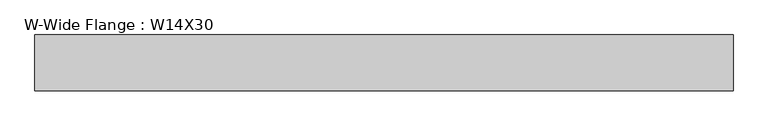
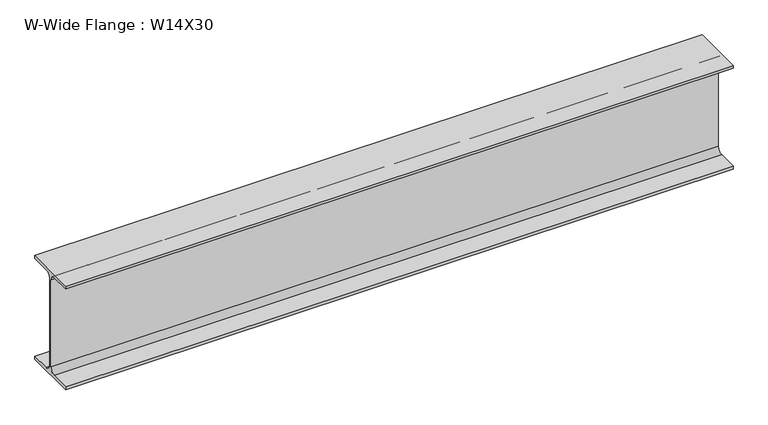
"""IFC4 building model written with IfcOpenShell, lengths in millimetres: beam geometry, W-Wide Flange : W14X30."""

from ifc_helpers import new_model, si_unit, point, frame, frame_2d, origin, place, context, project, spatial, polyline, circle_curve, trimmed, segment, composite_curve, outline, extrude, source, transform, mapped, element, save


def w_wide_flange_w14x30_ee78d664(model_context):
    return source(origin(), model_context, "Body", "SweptSolid", [
        extrude(outline(composite_curve([segment(polyline([(85.471, -165.481), (85.471, -175.26), (-85.471, -175.26), (-85.471, -165.481), (-22.225, -165.481)]), True, "CONTINUOUS"), segment(trimmed(circle_curve(frame_2d((-22.225, -146.685)), 18.796), [point((-22.225, -165.481))], [point((-3.429, -146.685))], True, "CARTESIAN"), True, "CONTINUOUS"), segment(polyline([(-3.429, -146.685), (-3.429, 146.685)]), True, "CONTINUOUS"), segment(trimmed(circle_curve(frame_2d((-22.225, 146.685)), 18.796), [point((-3.429, 146.685))], [point((-22.225, 165.481))], True, "CARTESIAN"), True, "CONTINUOUS"), segment(polyline([(-22.225, 165.481), (-85.471, 165.481), (-85.471, 175.26), (85.471, 175.26), (85.471, 165.481), (22.225, 165.481)]), True, "CONTINUOUS"), segment(trimmed(circle_curve(frame_2d((22.225, 146.685)), 18.796), [point((22.225, 165.481))], [point((3.429, 146.685))], True, "CARTESIAN"), True, "CONTINUOUS"), segment(polyline([(3.429, 146.685), (3.429, -146.685)]), True, "CONTINUOUS"), segment(trimmed(circle_curve(frame_2d((22.225, -146.685)), 18.796), [point((3.429, -146.685))], [point((22.225, -165.481))], True, "CARTESIAN"), True, "CONTINUOUS"), segment(polyline([(22.225, -165.481), (85.471, -165.481)]), True, "CONTINUOUS")], self_intersect=False)), frame((-1067.6147122, 0.0, 0.0), z_axis=(1.0, 0.0, 0.0), x_axis=(0.0, 1.0, 0.0)), (0.0, 0.0, 1.0), 2135.2294243),
    ])


if __name__ == "__main__":
    model = new_model("IFC4")
    model_context = context("Model", 3, world=origin())
    ifc_project = project(units=[si_unit("LENGTHUNIT", "METRE", prefix="MILLI")], contexts=[model_context])
    site = spatial("IfcSite", under=ifc_project)
    building = spatial("IfcBuilding", under=site)
    placement = place(None, origin())
    w_wide_flange_w14x30_shape = w_wide_flange_w14x30_ee78d664(model_context)
    element("IfcBeam", 1, ObjectType="W-Wide Flange : W14X30", at=placement, inside=building, context=model_context, shape_type="MappedRepresentation", body=[
        mapped(w_wide_flange_w14x30_shape, transform((0.0, 0.0, 0.0), x_axis=(1.0, 0.0, 0.0), y_axis=(0.0, 1.0, 0.0), z_axis=(0.0, 0.0, 1.0))),
    ])
    save(model, "model.ifc")
